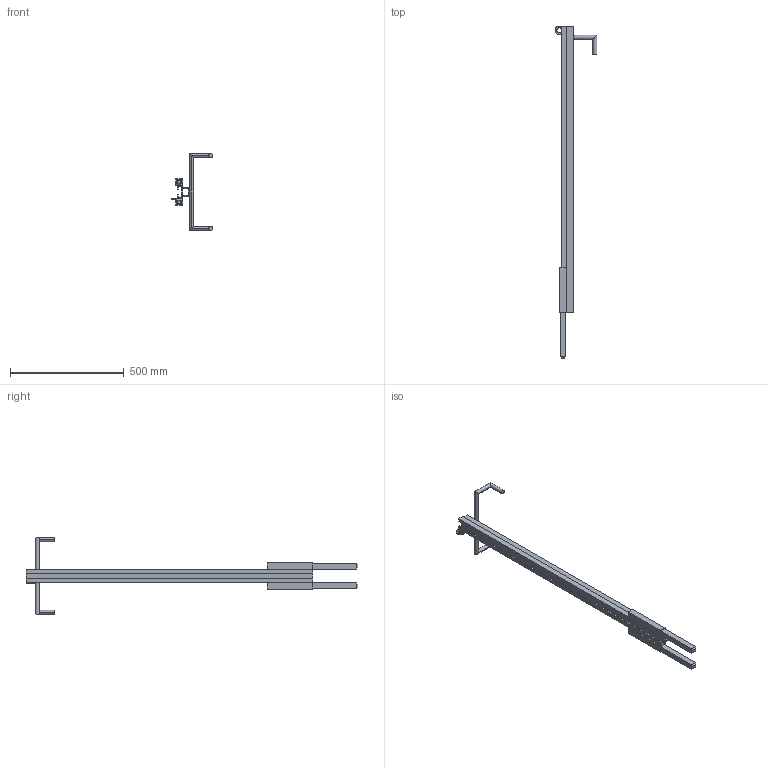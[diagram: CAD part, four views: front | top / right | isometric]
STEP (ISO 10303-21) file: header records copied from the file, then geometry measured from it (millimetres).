
FILE_DESCRIPTION((''),'2;1');
FILE_NAME('52170708','2023-12-12T13:49:31',('hrl'),('HUBER SE'),'CREO PARAMETRIC BY PTC INC, 2023154','CREO PARAMETRIC BY PTC INC, 2023154','');
FILE_SCHEMA(('AUTOMOTIVE_DESIGN { 1 0 10303 214 1 1 1 1 }'));
Length unit declared in the file: millimetre
Products named in the file (1): 52170708
Bounding box: 184.5 x 1460 x 338 mm (x, y, z)
Volume: 2072646.8 mm3; surface area: 631637.6 mm2
Topology: 2 solids, 2 shells, 67 faces, 168 edges, 106 vertices
Faces by surface type: plane 53, cylinder 14
Entity records: 2833 total; most frequent: CARTESIAN_POINT 727, ORIENTED_EDGE 336, DIRECTION 306, EDGE_CURVE 168, VECTOR 140, LINE 140, VERTEX_POINT 106, COLOUR_RGB 106
